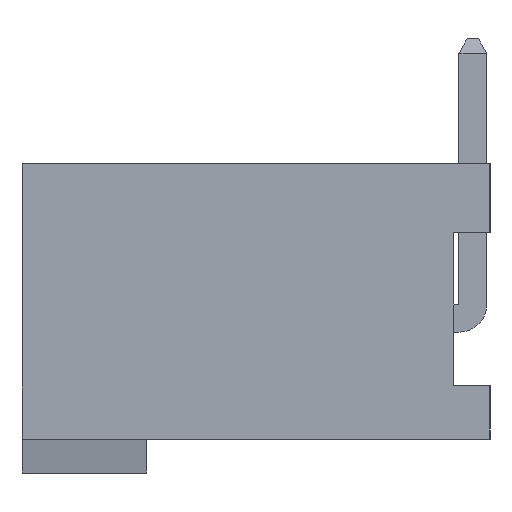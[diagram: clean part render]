
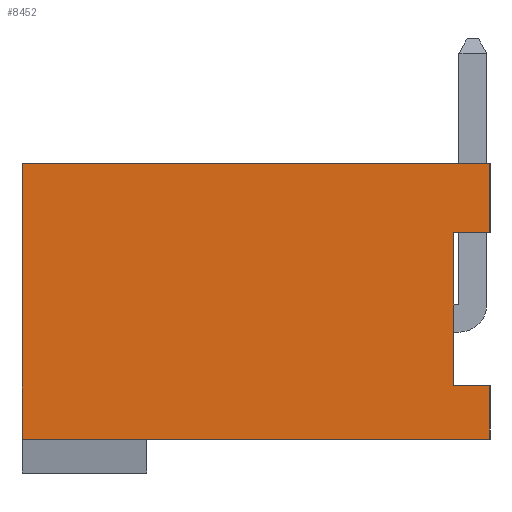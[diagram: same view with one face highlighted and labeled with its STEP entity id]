
A CAD part, left-side view. The second image highlights one B-rep face of the part: STEP entity #8452.
In plain terms, the highlighted planar face has unit normal (-1, 0, 0).
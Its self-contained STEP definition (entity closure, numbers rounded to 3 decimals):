
#1173=DIRECTION('',(0.,0.,1.));
#1174=VECTOR('',#1173,1.25);
#1175=CARTESIAN_POINT('',(-32.155,-5.45,-2.815));
#1176=LINE('',#1175,#1174);
#1185=DIRECTION('',(0.,0.,1.));
#1186=VECTOR('',#1185,1.61);
#1187=CARTESIAN_POINT('',(-32.155,-5.45,1.995));
#1188=LINE('',#1187,#1186);
#1229=DIRECTION('',(0.,-1.,0.));
#1230=VECTOR('',#1229,10.9);
#1231=CARTESIAN_POINT('',(-32.155,5.45,3.605));
#1232=LINE('',#1231,#1230);
#1377=DIRECTION('',(0.,1.,0.));
#1378=VECTOR('',#1377,0.85);
#1379=CARTESIAN_POINT('',(-32.155,-5.45,-1.565));
#1380=LINE('',#1379,#1378);
#1381=DIRECTION('',(0.,-1.,0.));
#1382=VECTOR('',#1381,10.9);
#1383=CARTESIAN_POINT('',(-32.155,5.45,-2.815));
#1384=LINE('',#1383,#1382);
#1385=DIRECTION('',(0.,0.,1.));
#1386=VECTOR('',#1385,6.42);
#1387=CARTESIAN_POINT('',(-32.155,5.45,-2.815));
#1388=LINE('',#1387,#1386);
#1389=DIRECTION('',(0.,1.,0.));
#1390=VECTOR('',#1389,0.85);
#1391=CARTESIAN_POINT('',(-32.155,-5.45,1.995));
#1392=LINE('',#1391,#1390);
#1393=DIRECTION('',(0.,0.,1.));
#1394=VECTOR('',#1393,3.56);
#1395=CARTESIAN_POINT('',(-32.155,-4.6,-1.565));
#1396=LINE('',#1395,#1394);
#5417=CARTESIAN_POINT('',(-32.155,5.45,3.605));
#5418=CARTESIAN_POINT('',(-32.155,-5.45,3.605));
#5419=VERTEX_POINT('',#5417);
#5420=VERTEX_POINT('',#5418);
#5437=CARTESIAN_POINT('',(-32.155,-5.45,-1.565));
#5438=CARTESIAN_POINT('',(-32.155,-4.6,-1.565));
#5439=VERTEX_POINT('',#5437);
#5440=VERTEX_POINT('',#5438);
#5441=CARTESIAN_POINT('',(-32.155,-4.6,1.995));
#5442=VERTEX_POINT('',#5441);
#5443=CARTESIAN_POINT('',(-32.155,-5.45,1.995));
#5444=VERTEX_POINT('',#5443);
#5511=CARTESIAN_POINT('',(-32.155,5.45,-2.815));
#5512=CARTESIAN_POINT('',(-32.155,-5.45,-2.815));
#5513=VERTEX_POINT('',#5511);
#5514=VERTEX_POINT('',#5512);
#8437=CARTESIAN_POINT('',(-32.155,5.45,-3.605));
#8438=DIRECTION('',(-1.,0.,0.));
#8439=DIRECTION('',(0.,-1.,0.));
#8440=AXIS2_PLACEMENT_3D('',#8437,#8438,#8439);
#8441=PLANE('',#8440);
#8442=ORIENTED_EDGE('',*,*,#8156,.F.);
#8443=ORIENTED_EDGE('',*,*,#8113,.F.);
#8444=ORIENTED_EDGE('',*,*,#8068,.F.);
#8445=ORIENTED_EDGE('',*,*,#7147,.T.);
#8446=ORIENTED_EDGE('',*,*,#8187,.T.);
#8447=ORIENTED_EDGE('',*,*,#8128,.F.);
#8448=ORIENTED_EDGE('',*,*,#7983,.T.);
#8449=ORIENTED_EDGE('',*,*,#7708,.F.);
#8450=EDGE_LOOP('',(#8442,#8443,#8444,#8445,#8446,#8447,#8448,#8449));
#8451=FACE_OUTER_BOUND('',#8450,.F.);
#8452=ADVANCED_FACE('',(#8451),#8441,.T.);
#7147=EDGE_CURVE('',#5513,#5419,#1388,.T.);
#7708=EDGE_CURVE('',#5440,#5442,#1396,.T.);
#7983=EDGE_CURVE('',#5444,#5442,#1392,.T.);
#8068=EDGE_CURVE('',#5513,#5514,#1384,.T.);
#8113=EDGE_CURVE('',#5514,#5439,#1176,.T.);
#8128=EDGE_CURVE('',#5444,#5420,#1188,.T.);
#8156=EDGE_CURVE('',#5439,#5440,#1380,.T.);
#8187=EDGE_CURVE('',#5419,#5420,#1232,.T.);
